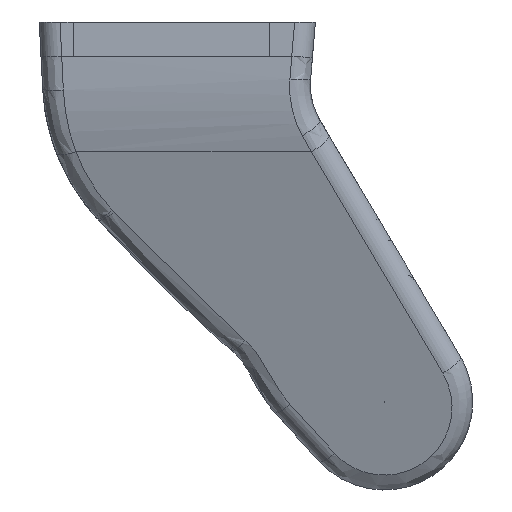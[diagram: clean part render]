
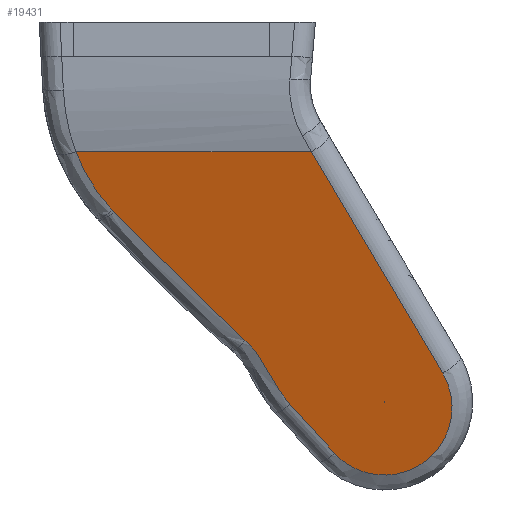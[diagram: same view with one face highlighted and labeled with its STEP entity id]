
A CAD part, left-side view. The second image highlights one B-rep face of the part: STEP entity #19431.
In plain terms, the highlighted planar face has unit normal (-0.961, 0, -0.277).
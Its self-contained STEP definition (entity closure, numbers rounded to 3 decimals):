
#1451 = LINE ( 'NONE', #1458, #2794 ) ;
#1458 = CARTESIAN_POINT ( 'NONE',  ( -784.731, 145.374, 12.928 ) ) ;
#1459 = DIRECTION ( 'NONE',  ( 0., 1., 0. ) ) ;
#1463 = CARTESIAN_POINT ( 'NONE',  ( -782.29, 197.63, 4.46 ) ) ;
#1465 = CARTESIAN_POINT ( 'NONE',  ( -778.125, 183.684, -9.99 ) ) ;
#1474 = CARTESIAN_POINT ( 'NONE',  ( -774.381, 172.507, -22.975 ) ) ;
#1478 = LINE ( 'NONE', #1483, #2800 ) ;
#1479 = CARTESIAN_POINT ( 'NONE',  ( -783.005, 199.9, 6.939 ) ) ;
#1480 = CARTESIAN_POINT ( 'NONE',  ( -783.828, 201.674, 9.794 ) ) ;
#1481 = CARTESIAN_POINT ( 'NONE',  ( -784.731, 202.889, 12.928 ) ) ;
#1482 = CARTESIAN_POINT ( 'NONE',  ( -776.844, 178.374, -14.431 ) ) ;
#1483 = CARTESIAN_POINT ( 'NONE',  ( -776.487, 179.197, -15.669 ) ) ;
#1484 = DIRECTION ( 'NONE',  ( -0.208, 0.661, 0.721 ) ) ;
#1485 = CARTESIAN_POINT ( 'NONE',  ( -771.485, 141.487, -33.022 ) ) ;
#1486 = CARTESIAN_POINT ( 'NONE',  ( -780.083, 190.618, -3.198 ) ) ;
#1487 = CARTESIAN_POINT ( 'NONE',  ( -782.215, 197.39, 4.197 ) ) ;
#1488 = LINE ( 'NONE', #1490, #2803 ) ;
#1489 = CARTESIAN_POINT ( 'NONE',  ( -774.177, 171.858, -23.684 ) ) ;
#1490 = CARTESIAN_POINT ( 'NONE',  ( -776.487, 179.197, -15.669 ) ) ;
#1491 = CARTESIAN_POINT ( 'NONE',  ( -774.604, 173.05, -22.201 ) ) ;
#1492 = CARTESIAN_POINT ( 'NONE',  ( -775.065, 174.049, -20.601 ) ) ;
#1493 = CARTESIAN_POINT ( 'NONE',  ( -775.305, 174.501, -19.772 ) ) ;
#1494 = CARTESIAN_POINT ( 'NONE',  ( -775.78, 175.417, -18.121 ) ) ;
#1495 = CARTESIAN_POINT ( 'NONE',  ( -776.018, 175.88, -17.299 ) ) ;
#1496 = CARTESIAN_POINT ( 'NONE',  ( -776.349, 176.702, -16.147 ) ) ;
#1497 = CARTESIAN_POINT ( 'NONE',  ( -776.456, 176.997, -15.778 ) ) ;
#1498 = CARTESIAN_POINT ( 'NONE',  ( -776.658, 177.646, -15.075 ) ) ;
#1499 = CARTESIAN_POINT ( 'NONE',  ( -776.755, 178.001, -14.742 ) ) ;
#1500 = CARTESIAN_POINT ( 'NONE',  ( -776.844, 178.374, -14.431 ) ) ;
#1501 = CARTESIAN_POINT ( 'NONE',  ( -775.495, 149.748, -19.112 ) ) ;
#1502 = DIRECTION ( 'NONE',  ( -0.208, 0.661, 0.721 ) ) ;
#1505 = CARTESIAN_POINT ( 'NONE',  ( -768.704, 154.476, -42.666 ) ) ;
#1506 = CARTESIAN_POINT ( 'NONE',  ( -772.144, 165.401, -30.735 ) ) ;
#1507 = LINE ( 'NONE', #1508, #2802 ) ;
#1508 = CARTESIAN_POINT ( 'NONE',  ( -781.941, 163.027, 3.247 ) ) ;
#1509 = DIRECTION ( 'NONE',  ( 0.241, -0.496, -0.835 ) ) ;
#2794 = VECTOR ( 'NONE', #1459, 1000. ) ;
#2800 = VECTOR ( 'NONE', #1484, 1000. ) ;
#2802 = VECTOR ( 'NONE', #1509, 1000. ) ;
#2803 = VECTOR ( 'NONE', #1502, 1000. ) ;
#5008 = B_SPLINE_CURVE_WITH_KNOTS ( 'NONE', 3,
 ( #1489, #1474, #1491, #1492, #1493, #1494, #1495, #1496, #1497, #1498, #1499, #1500 ),
 .UNSPECIFIED., .F., .F.,
 ( 4, 2, 2, 2, 2, 4 ),
 ( 0., 0.003, 0.006, 0.009, 0.01, 0.012 ),
 .UNSPECIFIED. ) ;
#9382 = AXIS2_PLACEMENT_3D ( 'NONE', #9744, #9750, #9751 ) ;
#9741 = PLANE ( 'NONE',  #9382 ) ;
#9744 = CARTESIAN_POINT ( 'NONE',  ( -784.731, 145.374, 12.928 ) ) ;
#9748 = FACE_OUTER_BOUND ( 'NONE', #13214, .T. ) ;
#9750 = DIRECTION ( 'NONE',  ( -0.961, 0., -0.277 ) ) ;
#9751 = DIRECTION ( 'NONE',  ( -0.277, 0., 0.961 ) ) ;
#11000 = CARTESIAN_POINT ( 'NONE',  ( -784.731, 202.889, 12.928 ) ) ;
#11003 = CARTESIAN_POINT ( 'NONE',  ( -784.731, 168.777, 12.928 ) ) ;
#11004 = CARTESIAN_POINT ( 'NONE',  ( -782.29, 197.63, 4.46 ) ) ;
#11005 = CARTESIAN_POINT ( 'NONE',  ( -776.844, 178.374, -14.431 ) ) ;
#11006 = CARTESIAN_POINT ( 'NONE',  ( -774.177, 171.858, -23.684 ) ) ;
#11007 = CARTESIAN_POINT ( 'NONE',  ( -772.144, 165.401, -30.735 ) ) ;
#11008 = CARTESIAN_POINT ( 'NONE',  ( -782.215, 197.39, 4.197 ) ) ;
#11009 = CARTESIAN_POINT ( 'NONE',  ( -775.495, 149.748, -19.112 ) ) ;
#11416 =( BOUNDED_CURVE ( )  B_SPLINE_CURVE ( 3, ( #1463, #1479, #1480, #1481 ),
 .UNSPECIFIED., .F., .T. ) 
 B_SPLINE_CURVE_WITH_KNOTS ( ( 4, 4 ),
 ( 3.971, 4.342 ),
 .UNSPECIFIED. ) 
 CURVE ( )  GEOMETRIC_REPRESENTATION_ITEM ( )  RATIONAL_B_SPLINE_CURVE ( ( 1., 0.989, 0.989, 1. ) ) 
 REPRESENTATION_ITEM ( '' )  );
#11417 =( BOUNDED_CURVE ( )  B_SPLINE_CURVE ( 3, ( #1482, #1465, #1486, #1487 ),
 .UNSPECIFIED., .F., .T. ) 
 B_SPLINE_CURVE_WITH_KNOTS ( ( 4, 4 ),
 ( 3.876, 4.902 ),
 .UNSPECIFIED. ) 
 CURVE ( )  GEOMETRIC_REPRESENTATION_ITEM ( )  RATIONAL_B_SPLINE_CURVE ( ( 1., 0.914, 0.914, 1. ) ) 
 REPRESENTATION_ITEM ( '' )  );
#11418 =( BOUNDED_CURVE ( )  B_SPLINE_CURVE ( 3, ( #1501, #1485, #1505, #1506 ),
 .UNSPECIFIED., .F., .T. ) 
 B_SPLINE_CURVE_WITH_KNOTS ( ( 4, 4 ),
 ( 1.035, 3.971 ),
 .UNSPECIFIED. ) 
 CURVE ( )  GEOMETRIC_REPRESENTATION_ITEM ( )  RATIONAL_B_SPLINE_CURVE ( ( 1., 0.402, 0.402, 1. ) ) 
 REPRESENTATION_ITEM ( '' )  );
#11666 = ORIENTED_EDGE ( 'NONE', *, *, #18672, .T. ) ;
#11667 = ORIENTED_EDGE ( 'NONE', *, *, #18676, .F. ) ;
#11668 = ORIENTED_EDGE ( 'NONE', *, *, #18677, .F. ) ;
#11669 = ORIENTED_EDGE ( 'NONE', *, *, #18678, .F. ) ;
#11670 = ORIENTED_EDGE ( 'NONE', *, *, #18679, .F. ) ;
#11671 = ORIENTED_EDGE ( 'NONE', *, *, #18680, .F. ) ;
#11672 = ORIENTED_EDGE ( 'NONE', *, *, #18681, .F. ) ;
#11673 = ORIENTED_EDGE ( 'NONE', *, *, #18682, .F. ) ;
#13214 = EDGE_LOOP ( 'NONE', ( #11666, #11667, #11668, #11669, #11670, #11671, #11672, #11673 ) ) ;
#18672 = EDGE_CURVE ( 'NONE', #19796, #19793, #1451, .T. ) ;
#18676 = EDGE_CURVE ( 'NONE', #19797, #19793, #11416, .T. ) ;
#18677 = EDGE_CURVE ( 'NONE', #19801, #19797, #1478, .T. ) ;
#18678 = EDGE_CURVE ( 'NONE', #19798, #19801, #11417, .T. ) ;
#18679 = EDGE_CURVE ( 'NONE', #19799, #19798, #5008, .T. ) ;
#18680 = EDGE_CURVE ( 'NONE', #19800, #19799, #1488, .T. ) ;
#18681 = EDGE_CURVE ( 'NONE', #19802, #19800, #11418, .T. ) ;
#18682 = EDGE_CURVE ( 'NONE', #19796, #19802, #1507, .T. ) ;
#19431 = ADVANCED_FACE ( 'NONE', ( #9748 ), #9741, .T. ) ;
#19793 = VERTEX_POINT ( 'NONE', #11000 ) ;
#19796 = VERTEX_POINT ( 'NONE', #11003 ) ;
#19797 = VERTEX_POINT ( 'NONE', #11004 ) ;
#19798 = VERTEX_POINT ( 'NONE', #11005 ) ;
#19799 = VERTEX_POINT ( 'NONE', #11006 ) ;
#19800 = VERTEX_POINT ( 'NONE', #11007 ) ;
#19801 = VERTEX_POINT ( 'NONE', #11008 ) ;
#19802 = VERTEX_POINT ( 'NONE', #11009 ) ;
